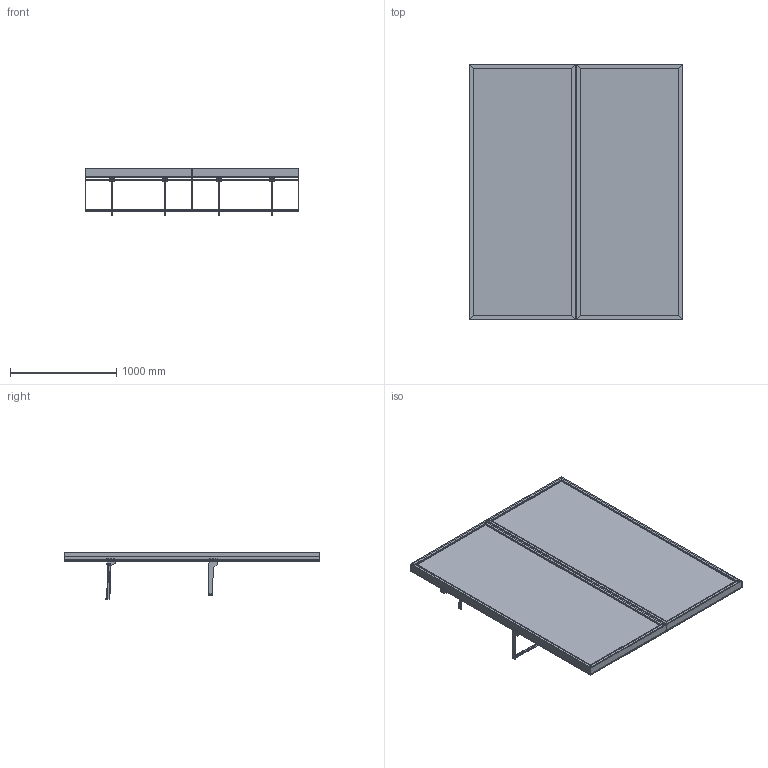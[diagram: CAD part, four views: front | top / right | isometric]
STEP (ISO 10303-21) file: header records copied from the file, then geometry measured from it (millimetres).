
FILE_DESCRIPTION (( 'STEP AP203' ), '1' );
FILE_NAME ('Padel Retail Display - Apparel Double.STEP', '2026-03-30T11:45:53', ( '' ), ( '' ), 'SwSTEP 2.0', 'SolidWorks 2025', '' );
FILE_SCHEMA (( 'CONFIG_CONTROL_DESIGN' ));
Length unit declared in the file: millimetre
Products named in the file (16): 0001-31-130.STEP; 0001-31-SA25 - 1005W Side Facing D Rail_Assem9; 0001-31-SA26 - 1005W Rear support Bar_Assem8; 0001-31-100.STEP; 0001-31-GA10 - 1005W Slotted upbright; 0001-31-SA27 - Forward Facing Arm_Assem11; 0001-31-112.STEP; 0001-31-SA25 - 1005W Side Facing D Rail.STEP; 0001-31-131.STEP; 0001-31-SA26 - 1005W Rear support Bar.STEP; 0001-31-103.STEP; Padel Retail Display - Apparel Double; 0001-31-SA27 - Forward Facing Arm.STEP; 0001-31-110.STEP; Padel Retail Display - Apparel Single_Assem7; 0001-31-104.STEP
Assembly tree (19 placements, depth 5):
  Padel Retail Display - Apparel Double
    Padel Retail Display - Apparel Single_Assem7  x2
      0001-31-GA10 - 1005W Slotted upbright
      0001-31-SA27 - Forward Facing Arm_Assem11
        0001-31-SA27 - Forward Facing Arm.STEP
          0001-31-104.STEP
          0001-31-112.STEP
          0001-31-110.STEP
      0001-31-SA25 - 1005W Side Facing D Rail_Assem9
        0001-31-SA25 - 1005W Side Facing D Rail.STEP
          0001-31-100.STEP  x2
          0001-31-130.STEP
      0001-31-SA26 - 1005W Rear support Bar_Assem8
        0001-31-SA26 - 1005W Rear support Bar.STEP
          0001-31-103.STEP  x2
          0001-31-131.STEP
Bounding box: 2009.98 x 2400 x 436.21 mm (x, y, z)
Volume: 16738777.1 mm3; surface area: 24799224.8 mm2
Topology: 36 solids, 36 shells, 1724 faces, 5812 edges, 3864 vertices
Faces by surface type: plane 1464, cylinder 260
Entity records: 30080 total; most frequent: CARTESIAN_POINT 5435, ORIENTED_EDGE 5216, DIRECTION 4146, EDGE_CURVE 2608, LINE 2420, VECTOR 2420, VERTEX_POINT 1736, EDGE_LOOP 922
